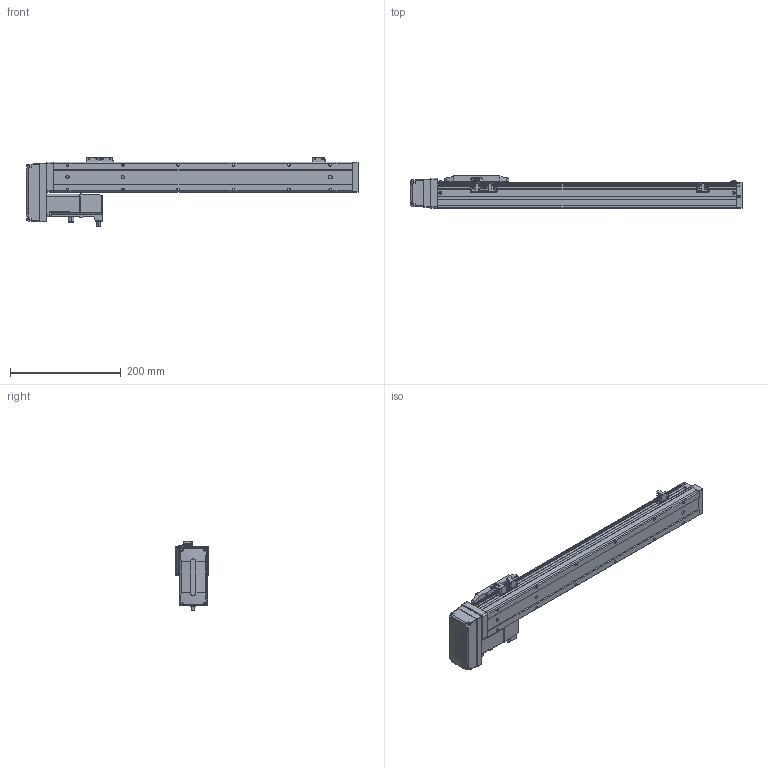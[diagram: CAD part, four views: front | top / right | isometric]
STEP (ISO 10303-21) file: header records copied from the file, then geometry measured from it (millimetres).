
FILE_DESCRIPTION (( 'STEP AP203' ), '1' );
FILE_NAME ('CTH5-L10-S400-BR-C10(¼ò).STEP', '2023-02-04T02:29:02', ( '' ), ( '' ), 'SwSTEP 2.0', 'SolidWorks 2018', '' );
FILE_SCHEMA (( 'CONFIG_CONTROL_DESIGN' ));
Length unit declared in the file: millimetre
Products named in the file (22): PM-Y45; CTH5賑怢; CTH5耜蚾蟀諉啣(潠); CTH5耜蚾欶; 葩璃 蚾饜极13^CTH8-L10-S50-BM-C40(潠)1; M3｡｣; CTH5ヶ耜啣(潠); CTH5-BL-T10_body5; T10-p1; CTH5菁釱-L540; CTH5覜茼え; hex nuts, style 1-grades ab gb_GB_FASTENER_NUT_SNAB1 M3-N; CTH100W假蚾啣; 100W萇儂; CTH5綴耜啣; 内六角圆柱头螺钉M3-2; CTH5耜晚蹟隊; CTH5-L10-S400-BR-C10(潠); CTH嫖萇羲壽假蚾啣; CTH5耜晚蹟隊-1; 嫖萇羲壽郪磁1; 葩璃 蚾饜极16^CTH5-L10-S400-BR-C10(潠)
Assembly tree (37 placements, depth 4):
  CTH5-L10-S400-BR-C10(潠)
    CTH5綴耜啣
    CTH5賑怢
    CTH5ヶ耜啣(潠)
    CTH5菁釱-L540
    CTH5耜晚蹟隊  x2
    嫖萇羲壽郪磁1  x2
      CTH嫖萇羲壽假蚾啣
      PM-Y45
      M3｡｣
      内六角圆柱头螺钉M3-2
      hex nuts, style 1-grades ab gb_GB_FASTENER_NUT_SNAB1 M3-N
    CTH5覜茼え
    葩璃 蚾饜极13^CTH8-L10-S50-BM-C40(潠)1
      CTH嫖萇羲壽假蚾啣
      PM-Y45
      内六角圆柱头螺钉M3-2  x2
      M3｡｣  x2
      hex nuts, style 1-grades ab gb_GB_FASTENER_NUT_SNAB1 M3-N  x2
    CTH5耜晚蹟隊-1  x4
    葩璃 蚾饜极16^CTH5-L10-S400-BR-C10(潠)
      CTH5耜蚾蟀諉啣(潠)
      CTH5耜蚾欶
        CTH5-BL-T10_body5
      100W萇儂
        T10-p1
      CTH100W假蚾啣
Bounding box: 600 x 60 x 126.31 mm (x, y, z)
Volume: 1558589.3 mm3; surface area: 233134.7 mm2
Topology: 39 solids, 39 shells, 1595 faces, 3999 edges, 2584 vertices
Faces by surface type: plane 890, cylinder 464, cone 183, torus 40, bspline 18
Entity records: 37069 total; most frequent: CARTESIAN_POINT 6864, DIRECTION 5843, ORIENTED_EDGE 5622, EDGE_CURVE 2811, AXIS2_PLACEMENT_3D 2006, VECTOR 1831, LINE 1831, VERTEX_POINT 1812
